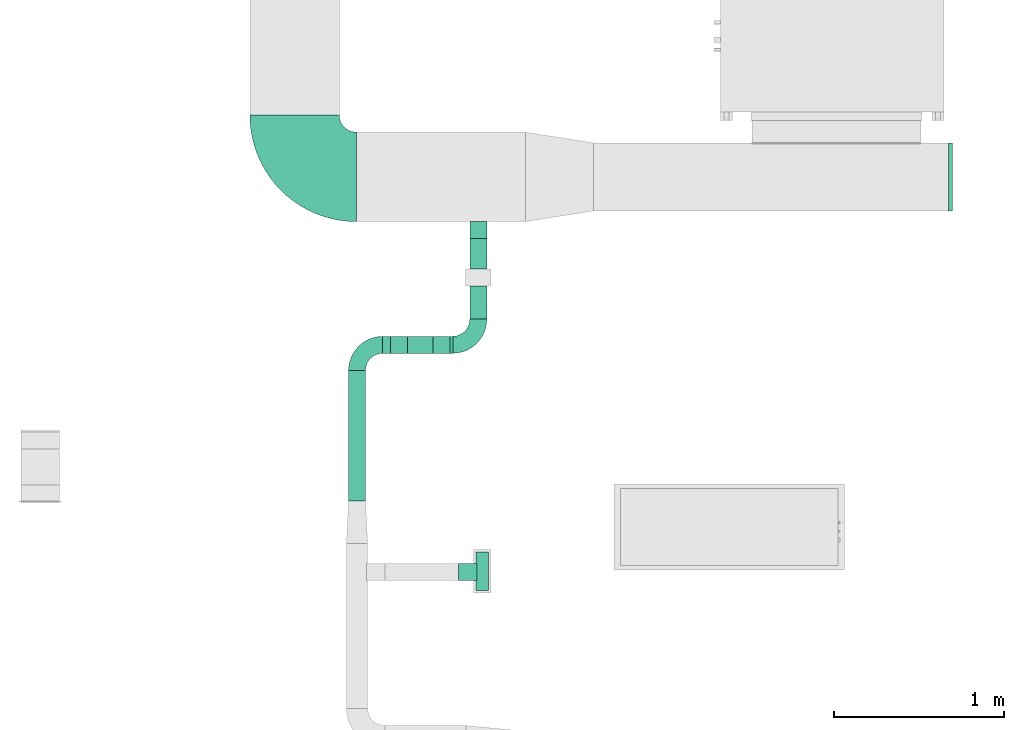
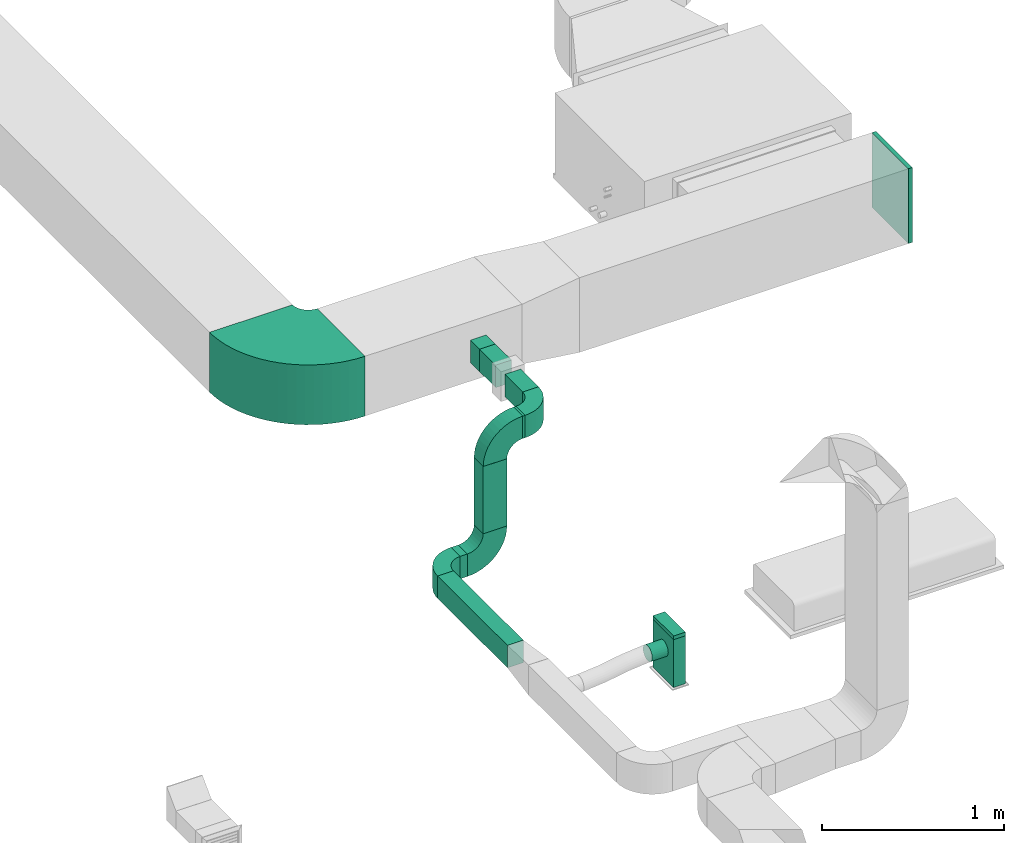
# One storey, part 28 of 60: 8 flow fittings, 7 flow segments, 1 flow terminal.
"""IFC2X3 building model written with IfcOpenShell, lengths in millimetres."""

from ifc_helpers import new_model, entity, si_unit, converted_unit, derived_unit, direction, frame, frame_2d, origin, origin_2d_with_axis, place, context, subcontext, project, spatial, polyline, circle_curve, parameter, trimmed, segment, composite_curve, rectangle, outline, extrude, faceted_brep, source, transform, mapped, material, type_object, type_shapes, element, save


model = new_model("IFC2X3")

# Units and contexts
model_context = context("Model", 3, precision=0.01, world=origin(), true_north=direction((6.123233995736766e-17, 1.0)))
body_context = subcontext(model_context, "Body", "Model", "MODEL_VIEW")
ifc_project = project(units=[si_unit("LENGTHUNIT", "METRE", prefix="MILLI"), converted_unit("PLANEANGLEUNIT", "DEGREE", entity("IfcPlaneAngleMeasure", 0.017453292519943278), si_unit("PLANEANGLEUNIT", "RADIAN"), dimensions=[0, 0, 0, 0, 0, 0, 0]), si_unit("AREAUNIT", "SQUARE_METRE"), derived_unit("THERMALTRANSMITTANCEUNIT", [(si_unit("MASSUNIT", "GRAM", prefix="KILO"), 1), (si_unit("THERMODYNAMICTEMPERATUREUNIT", "KELVIN"), -1), (si_unit("TIMEUNIT", "SECOND"), -3)])], contexts=[model_context])

# Site, building, storey
site_placement = place(None, origin())
site = spatial("IfcSite", under=ifc_project, at=site_placement, Name="Default", CompositionType="ELEMENT")
building_placement = place(site_placement, origin())
building = spatial("IfcBuilding", under=site, at=building_placement, Name="Praça Pedro II, 1301 - Centro (Sul), Teresina - PI, 64001-100", CompositionType="ELEMENT")
storey_placement = place(building_placement, frame((0.0, 0.0, 6040.0)))
storey = spatial("IfcBuildingStorey", under=building, at=storey_placement, Name="2PAV", CompositionType="ELEMENT", Elevation=6040.0)

# Flow segments
duct_segment_type_1 = type_object("IfcDuctSegmentType", Name="Duto retangular:Raios cotovelos / tês", PredefinedType="NOTDEFINED")
flow_segment_1_placement = place(storey_placement, origin())
element("IfcFlowSegment", 1, at=flow_segment_1_placement, inside=storey, type_object=duct_segment_type_1, Name="Duto retangular:Raios cotovelos / tês", ObjectType="Duto retangular:Raios cotovelos / tês", context=body_context, shape_type="SweptSolid", body=[
    extrude(rectangle(XDim=75.00000000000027, YDim=225.00000000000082, at=origin_2d_with_axis()), frame((36780.321071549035, -65462.120265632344, 2500.0), z_axis=(0.0, 0.0, 1.0), x_axis=(-1.0, 0.0, 0.0)), (0.0, 0.0, 1.0), 319.99999999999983),
])
duct_segment_type_2 = type_object("IfcDuctSegmentType", Name="Duto retangular:Raios cotovelos / torneiras", PredefinedType="NOTDEFINED")
flow_segment_2_placement = place(storey_placement, origin())
element("IfcFlowSegment", 2, at=flow_segment_2_placement, inside=storey, type_object=duct_segment_type_2, Name="Duto retangular:Raios cotovelos / torneiras", ObjectType="Duto retangular:Raios cotovelos / torneiras", context=body_context, shape_type="SweptSolid", body=[
    extrude(rectangle(XDim=194.99999999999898, YDim=99.99999999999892, at=frame_2d((-4.334310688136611e-12, -2.1671553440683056e-12), x_axis=(1.0, 0.0))), frame((36756.67870718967, -63885.653150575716, 3375.0), z_axis=(0.0, 0.0, 1.0), x_axis=(0.0, -1.0, 0.0)), (0.0, 0.0, 1.0), 150.00000000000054),
])
flow_segment_3_placement = place(storey_placement, origin())
element("IfcFlowSegment", 3, at=flow_segment_3_placement, inside=storey, type_object=duct_segment_type_2, Name="Duto retangular:Raios cotovelos / torneiras", ObjectType="Duto retangular:Raios cotovelos / torneiras", context=body_context, shape_type="SweptSolid", body=[
    extrude(rectangle(XDim=15.000000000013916, YDim=100.00000000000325, at=origin_2d_with_axis()), frame((36599.17870718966, -64133.1531505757, 3375.0), z_axis=(0.0, 0.0, 1.0), x_axis=(-1.0, 0.0, 0.0)), (0.0, 0.0, 1.0), 150.00000000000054),
])
flow_segment_4_placement = place(storey_placement, origin())
element("IfcFlowSegment", 4, at=flow_segment_4_placement, inside=storey, type_object=duct_segment_type_2, Name="Duto retangular:Raios cotovelos / torneiras", ObjectType="Duto retangular:Raios cotovelos / torneiras", context=body_context, shape_type="SweptSolid", body=[
    extrude(rectangle(XDim=177.37765059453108, YDim=99.99999999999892, at=frame_2d((4.334310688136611e-12, 0.0), x_axis=(1.0, 0.0))), frame((36756.67870718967, -63599.464325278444, 3375.0), z_axis=(0.0, 0.0, 1.0), x_axis=(0.0, -1.0, 0.0)), (0.0, 0.0, 1.0), 150.00000000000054),
])
flow_segment_5_placement = place(storey_placement, origin())
element("IfcFlowSegment", 5, at=flow_segment_5_placement, inside=storey, type_object=duct_segment_type_2, Name="Duto retangular:Raios cotovelos / torneiras", ObjectType="Duto retangular:Raios cotovelos / torneiras", context=body_context, shape_type="SweptSolid", body=[
    extrude(rectangle(XDim=100.00000000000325, YDim=150.00000000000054, at=origin_2d_with_axis()), frame((36416.678707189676, -64133.15315057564, 2825.0), z_axis=(0.0, 0.0, 1.0), x_axis=(0.0, -1.0, 0.0)), (0.0, 0.0, 1.0), 450.0000000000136),
])
flow_segment_6_placement = place(storey_placement, origin())
element("IfcFlowSegment", 6, at=flow_segment_6_placement, inside=storey, type_object=duct_segment_type_2, Name="Duto retangular:Raios cotovelos / torneiras", ObjectType="Duto retangular:Raios cotovelos / torneiras", context=body_context, shape_type="SweptSolid", body=[
    extrude(rectangle(XDim=46.30978149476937, YDim=100.00000000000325, at=frame_2d((0.0, -4.334310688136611e-12), x_axis=(1.0, 0.0))), frame((36218.52381644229, -64133.15315057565, 2575.0), z_axis=(0.0, 0.0, 1.0), x_axis=(-1.0, 0.0, 0.0)), (0.0, 0.0, 1.0), 150.00000000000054),
])
flow_segment_7_placement = place(storey_placement, origin())
element("IfcFlowSegment", 7, at=flow_segment_7_placement, inside=storey, type_object=duct_segment_type_2, Name="Duto retangular:Raios cotovelos / torneiras", ObjectType="Duto retangular:Raios cotovelos / torneiras", context=body_context, shape_type="SweptSolid", body=[
    extrude(rectangle(XDim=766.1890917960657, YDim=99.99999999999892, at=frame_2d((0.0, 6.497913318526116e-12), x_axis=(1.0, 0.0))), frame((36045.36892569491, -64666.247696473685, 2575.0), z_axis=(0.0, 0.0, 1.0), x_axis=(0.0, -1.0, 0.0)), (0.0, 0.0, 1.0), 150.00000000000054),
])

# Flow fittings
ifc_material = material(Name="<Unnamed>")
duct_fitting_type_1 = type_object("IfcDuctFittingType", Name="M_Tampa retangular:Padrão", PredefinedType="NOTDEFINED", material=ifc_material)
shared_shape_1 = source(origin(), body_context, "Body", "SweptSolid", [
    extrude(rectangle(XDim=24.99999999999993, YDim=400.0, at=frame_2d((8.881784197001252e-16, 0.0), x_axis=(1.0, 0.0))), frame((12.500000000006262, 0.0, -250.0)), (0.0, 0.0, 1.0), 500.00000000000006),
])
type_shapes(duct_fitting_type_1, [shared_shape_1])
flow_fitting_1_placement = place(storey_placement, frame((39513.6210715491, -63148.275499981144, 3400.0)))
element("IfcFlowFitting", 8, at=flow_fitting_1_placement, inside=storey, type_object=duct_fitting_type_1, material=ifc_material, Name="M_Tampa retangular:Padrão", ObjectType="M_Tampa retangular:Padrão", context=body_context, shape_type="MappedRepresentation", body=[
    mapped(shared_shape_1, transform((0.0, 0.0, 0.0), scale=1.0)),
])
duct_fitting_type_2 = type_object("IfcDuctFittingType", Name="M_Tampa retangular:Padrão", PredefinedType="NOTDEFINED", material=ifc_material)
shared_shape_2 = source(origin(), body_context, "Body", "SweptSolid", [
    extrude(rectangle(XDim=24.999999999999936, YDim=225.00000000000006, at=origin_2d_with_axis()), frame((12.500000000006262, 0.0, -37.50000000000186)), (0.0, 0.0, 1.0), 75.0),
])
type_shapes(duct_fitting_type_2, [shared_shape_2])
flow_fitting_2_placement = place(storey_placement, frame((36780.321071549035, -65462.12026563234, 2820.0), z_axis=(-1.0, 0.0, 0.0), x_axis=(0.0, 0.0, 1.0)))
element("IfcFlowFitting", 9, at=flow_fitting_2_placement, inside=storey, type_object=duct_fitting_type_2, material=ifc_material, Name="M_Tampa retangular:Padrão", ObjectType="M_Tampa retangular:Padrão", context=body_context, shape_type="MappedRepresentation", body=[
    mapped(shared_shape_2, transform((0.0, 0.0, 0.0), scale=1.0)),
])
duct_fitting_type_3 = type_object("IfcDuctFittingType", Name="M_Encaixe de duto redondo:Padrão", PredefinedType="NOTDEFINED", material=ifc_material)
shared_shape_3 = source(origin(), body_context, "Body", "Brep", [
    faceted_brep([(101.60000000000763, 50.0, 0.0), (101.60000000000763, 48.296291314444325, 12.940952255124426), (101.60000000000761, 43.301270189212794, 25.0), (101.6000000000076, 35.35533905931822, 35.35533905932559), (101.60000000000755, 25.0, 43.30127018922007), (101.60000000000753, 12.94095225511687, 48.29629131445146), (101.6000000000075, 0.0, 50.0), (101.60000000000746, -12.940952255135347, 48.29629131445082), (101.60000000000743, -25.0, 43.30127018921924), (101.6000000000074, -35.35533905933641, 35.355339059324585), (101.60000000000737, -43.301270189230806, 25.0), (101.60000000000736, -48.296291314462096, 12.940952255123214), (101.60000000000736, -50.0, 0.0), (101.60000000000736, -48.29629131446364, -12.94095225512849), (101.60000000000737, -43.301270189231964, -25.0), (101.6000000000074, -35.35533905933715, -35.35533905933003), (101.60000000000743, -25.0, -43.30127018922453), (101.60000000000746, -12.94095225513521, -48.29629131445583), (101.6000000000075, 0.0, -50.0), (101.60000000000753, 12.9409522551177, -48.29629131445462), (101.60000000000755, 25.0, -43.30127018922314), (101.6000000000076, 35.35533905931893, -35.35533905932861), (101.60000000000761, 43.30127018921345, -25.0), (101.60000000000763, 48.2962913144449, -12.940952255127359), (0.0, 12.940952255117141, 48.29629131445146), (-6.0959999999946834, 12.94095225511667, 48.29629131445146), (-6.095999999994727, 0.0, 50.0), (0.0, 0.0, 50.0), (0.0, 25.0, 43.30127018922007), (-6.0959999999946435, 25.0, 43.30127018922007), (0.0, 35.35533905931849, 35.35533905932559), (-6.095999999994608, 35.35533905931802, 35.35533905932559), (0.0, 48.296291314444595, 12.940952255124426), (-6.095999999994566, 48.296291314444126, 12.940952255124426), (-6.095999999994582, 43.3012701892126, 25.0), (0.0, 43.301270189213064, 25.0), (0.0, 50.0, 0.0), (-6.09599999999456, 50.0, 0.0), (0.0, 43.30127018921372, -25.0), (-6.095999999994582, 43.30127018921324, -25.0), (-6.095999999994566, 48.296291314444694, -12.940952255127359), (0.0, 48.29629131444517, -12.940952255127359), (0.0, 35.3553390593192, -35.35533905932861), (-6.095999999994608, 35.35533905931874, -35.35533905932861), (0.0, 12.940952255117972, -48.29629131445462), (-6.0959999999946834, 12.940952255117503, -48.29629131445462), (-6.0959999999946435, 25.0, -43.30127018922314), (0.0, 25.0, -43.30127018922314), (0.0, 0.0, -50.0), (-6.095999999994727, 0.0, -50.0), (0.0, -12.940952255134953, -48.29629131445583), (-6.09599999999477, -12.940952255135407, -48.29629131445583), (0.0, -25.0, -43.30127018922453), (-6.0959999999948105, -25.0, -43.30127018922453), (0.0, -35.35533905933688, -35.35533905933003), (-6.095999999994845, -35.355339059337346, -35.35533905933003), (0.0, -48.29629131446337, -12.94095225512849), (-6.095999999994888, -48.29629131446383, -12.94095225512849), (-6.095999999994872, -43.30127018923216, -25.0), (0.0, -43.301270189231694, -25.0), (0.0, -50.0, 0.0), (-6.095999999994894, -50.0, 0.0), (0.0, -48.296291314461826, 12.940952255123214), (-6.095999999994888, -48.296291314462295, 12.940952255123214), (0.0, -43.30127018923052, 25.0), (-6.095999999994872, -43.301270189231, 25.0), (0.0, -35.35533905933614, 35.355339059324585), (-6.095999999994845, -35.35533905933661, 35.355339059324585), (0.0, -12.940952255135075, 48.29629131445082), (-6.09599999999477, -12.940952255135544, 48.29629131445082), (-6.0959999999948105, -25.0, 43.30127018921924), (0.0, -25.0, 43.30127018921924)], [[[0, 1, 2, 3, 4, 5, 6, 7, 8, 9, 10, 11, 12, 13, 14, 15, 16, 17, 18, 19, 20, 21, 22, 23]], [[24, 25, 26, 27, 6, 5]], [[28, 29, 25, 24, 5, 4]], [[4, 3, 30, 31, 29, 28]], [[32, 33, 34, 35, 2, 1]], [[36, 37, 33, 32, 1, 0]], [[3, 2, 35, 34, 31, 30]], [[23, 22, 38, 39, 40, 41]], [[0, 23, 41, 40, 37, 36]], [[22, 21, 42, 43, 39, 38]], [[44, 45, 46, 47, 20, 19]], [[48, 49, 45, 44, 19, 18]], [[21, 20, 47, 46, 43, 42]], [[50, 51, 49, 48, 18, 17]], [[52, 53, 51, 50, 17, 16]], [[16, 15, 54, 55, 53, 52]], [[56, 57, 58, 59, 14, 13]], [[60, 61, 57, 56, 13, 12]], [[15, 14, 59, 58, 55, 54]], [[62, 63, 61, 60, 12, 11]], [[64, 65, 63, 62, 11, 10]], [[10, 9, 66, 67, 65, 64]], [[68, 69, 70, 71, 8, 7]], [[27, 26, 69, 68, 7, 6]], [[9, 8, 71, 70, 67, 66]], [[49, 51, 53, 55, 58, 57, 61, 63, 65, 67, 70, 69, 26, 25, 29, 31, 34, 33, 37, 40, 39, 43, 46, 45]]]),
])
type_shapes(duct_fitting_type_3, [shared_shape_3])
flow_fitting_3_placement = place(storey_placement, frame((36742.82107154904, -65466.41699191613, 2700.0), z_axis=(0.0, 1.0, 0.0), x_axis=(-1.0, 0.0, 0.0)))
element("IfcFlowFitting", 10, at=flow_fitting_3_placement, inside=storey, type_object=duct_fitting_type_3, material=ifc_material, Name="M_Encaixe de duto redondo:Padrão", ObjectType="M_Encaixe de duto redondo:Padrão", context=body_context, shape_type="MappedRepresentation", body=[
    mapped(shared_shape_3, transform((0.0, 0.0, 0.0), scale=1.0)),
])
duct_fitting_type_4 = type_object("IfcDuctFittingType", Name="BTS vanes:1 Splitter Vanes", PredefinedType="NOTDEFINED", material=ifc_material)
shared_shape_4 = source(origin(), body_context, "Body", "SweptSolid", [
    extrude(outline(composite_curve([segment(polyline([(-125.0, -75.0), (-25.0, -75.0)]), True, "CONTINUOUS"), segment(trimmed(circle_curve(frame_2d((75.0, -75.0), x_axis=(0.0, 1.0)), 100.0), [parameter(0.0)], [parameter(90.00000000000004)], True, "PARAMETER"), False, "CONTINUOUS"), segment(polyline([(75.0, 25.0), (75.0, 125.0)]), True, "CONTINUOUS"), segment(trimmed(circle_curve(frame_2d((75.0, -75.0), x_axis=(0.0, 1.0)), 200.0), [parameter(0.0)], [parameter(90.00000000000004)], True, "PARAMETER"), True, "CONTINUOUS")], self_intersect=False)), frame((-75.0, 75.0, -75.0), z_axis=(0.0, 0.0, 1.0), x_axis=(-1.0, 0.0, 0.0)), (0.0, 0.0, 1.0), 150.0),
    extrude(outline(composite_curve([segment(polyline([(-77.63157894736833, -59.21052631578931), (-40.78947368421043, -59.2105263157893)]), True, "CONTINUOUS"), segment(trimmed(circle_curve(frame_2d((59.21052631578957, -59.21052631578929), x_axis=(0.0, 1.0)), 99.99999999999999), [parameter(0.0)], [parameter(90.00000000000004)], True, "PARAMETER"), False, "CONTINUOUS"), segment(polyline([(59.210526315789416, 40.789473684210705), (59.21052631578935, 77.63157894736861)]), True, "CONTINUOUS"), segment(trimmed(circle_curve(frame_2d((59.21052631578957, -59.21052631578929), x_axis=(0.0, 1.0)), 136.8421052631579), [parameter(0.0)], [parameter(89.99999999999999)], True, "PARAMETER"), True, "CONTINUOUS")], self_intersect=False)), frame((-90.78947368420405, 90.78947368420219, -75.0), z_axis=(0.0, 0.0, 1.0), x_axis=(-1.0, 0.0, 0.0)), (0.0, 0.0, 1.0), 150.0),
])
type_shapes(duct_fitting_type_4, [shared_shape_4])
flow_fitting_4_placement = place(storey_placement, frame((36756.67870718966, -64133.153150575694, 3450.0)))
element("IfcFlowFitting", 11, at=flow_fitting_4_placement, inside=storey, type_object=duct_fitting_type_4, material=ifc_material, Name="BTS vanes:1 Splitter Vanes", ObjectType="BTS vanes:1 Splitter Vanes", context=body_context, shape_type="MappedRepresentation", body=[
    mapped(shared_shape_4, transform((0.0, 0.0, 0.0), scale=1.0)),
])
flow_fitting_5_placement = place(storey_placement, frame((36045.36892569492, -64133.153150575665, 2650.0), z_axis=(0.0, 0.0, 1.0), x_axis=(-1.0, 0.0, 0.0)))
element("IfcFlowFitting", 12, at=flow_fitting_5_placement, inside=storey, type_object=duct_fitting_type_4, material=ifc_material, Name="BTS vanes:1 Splitter Vanes", ObjectType="BTS vanes:1 Splitter Vanes", context=body_context, shape_type="MappedRepresentation", body=[
    mapped(shared_shape_4, transform((0.0, 0.0, 0.0), scale=1.0)),
])

# Flow terminal
air_terminal_type = type_object("IfcAirTerminalType", Name="grelha genérica:grelha genérica", PredefinedType="NOTDEFINED", material=ifc_material)
shared_shape_5 = source(origin(), body_context, "Body", "SweptSolid", [
    extrude(rectangle(XDim=100.0, YDim=100.00000000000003, at=origin_2d_with_axis()), frame((50.0, 0.0, -75.0), z_axis=(0.0, 0.0, 1.0), x_axis=(-1.0, 0.0, 0.0)), (0.0, 0.0, 1.0), 150.0),
])
type_shapes(air_terminal_type, [shared_shape_5])
flow_terminal_placement = place(storey_placement, frame((36756.67870718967, -63410.77549998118, 3450.0), z_axis=(0.0, 0.0, 1.0), x_axis=(0.0, -1.0, 0.0)))
element("IfcFlowTerminal", 13, at=flow_terminal_placement, inside=storey, type_object=air_terminal_type, material=ifc_material, Name="grelha genérica:grelha genérica", ObjectType="grelha genérica:grelha genérica", context=body_context, shape_type="MappedRepresentation", body=[
    mapped(shared_shape_5, transform((0.0, 0.0, 0.0), scale=1.0)),
])

# Flow fittings
duct_fitting_type_5 = type_object("IfcDuctFittingType", Name="BTS vanes:1 Splitter Vanes", PredefinedType="NOTDEFINED", material=ifc_material)
shared_shape_6 = source(origin(), body_context, "Body", "SweptSolid", [
    extrude(outline(composite_curve([segment(polyline([(-162.5, -87.49999999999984), (-12.499999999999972, -87.49999999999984)]), True, "CONTINUOUS"), segment(trimmed(circle_curve(frame_2d((87.50000000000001, -87.49999999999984), x_axis=(0.0, 1.0)), 99.99999999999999), [parameter(0.0)], [parameter(90.00000000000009)], True, "PARAMETER"), False, "CONTINUOUS"), segment(polyline([(87.50000000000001, 12.500000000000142), (87.50000000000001, 162.50000000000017)]), True, "CONTINUOUS"), segment(trimmed(circle_curve(frame_2d((87.50000000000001, -87.49999999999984), x_axis=(0.0, 1.0)), 250.00000000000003), [parameter(0.0)], [parameter(90.00000000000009)], True, "PARAMETER"), True, "CONTINUOUS")], self_intersect=False)), frame((-87.4999999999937, 87.49999999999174, -50.0), z_axis=(0.0, 0.0, 1.0), x_axis=(-1.0, 0.0, 0.0)), (0.0, 0.0, 1.0), 100.0),
    extrude(outline(composite_curve([segment(polyline([(-77.63157894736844, -59.21052631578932), (-40.789473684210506, -59.21052631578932)]), True, "CONTINUOUS"), segment(trimmed(circle_curve(frame_2d((59.210526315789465, -59.21052631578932), x_axis=(0.0, 1.0)), 99.99999999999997), [parameter(0.0)], [parameter(90.00000000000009)], True, "PARAMETER"), False, "CONTINUOUS"), segment(polyline([(59.210526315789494, 40.78947368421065), (59.210526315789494, 77.63157894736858)]), True, "CONTINUOUS"), segment(trimmed(circle_curve(frame_2d((59.210526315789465, -59.21052631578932), x_axis=(0.0, 1.0)), 136.8421052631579), [parameter(0.0)], [parameter(90.00000000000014)], True, "PARAMETER"), True, "CONTINUOUS")], self_intersect=False)), frame((-115.78947368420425, 115.78947368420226, -50.0), z_axis=(0.0, 0.0, 1.0), x_axis=(-1.0, 0.0, 0.0)), (0.0, 0.0, 1.0), 100.0),
])
type_shapes(duct_fitting_type_5, [shared_shape_6])
for number, where, z_axis, x_axis, name in (
    (14, (36416.67870718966, -64133.1531505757, 3450.0), (0.0, -1.0, 0.0), (-1.0, 0.0, 0.0), "BTS vanes:1 Splitter Vanes"),
    (15, (36416.678707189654, -64133.15315057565, 2650.0), (0.0, 1.0, 0.0), (0.0, 0.0, -1.0), "BTS vanes:1 Splitter Vanes"),
):
    element("IfcFlowFitting", number, at=place(storey_placement, frame(where, z_axis=z_axis, x_axis=x_axis)), inside=storey, type_object=duct_fitting_type_5, material=ifc_material, Name=name, ObjectType="BTS vanes:1 Splitter Vanes", context=body_context, shape_type="MappedRepresentation", body=[
        mapped(shared_shape_6, transform((0.0, 0.0, 0.0), scale=1.0)),
    ])
duct_fitting_type_6 = type_object("IfcDuctFittingType", Name="BTS vanes:1 Splitter Vanes", PredefinedType="NOTDEFINED", material=ifc_material)
shared_shape_7 = source(origin(), body_context, "Body", "SweptSolid", [
    extrude(outline(composite_curve([segment(polyline([(-443.75, -181.24999999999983), (81.24999999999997, -181.24999999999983)]), True, "CONTINUOUS"), segment(trimmed(circle_curve(frame_2d((181.25000000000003, -181.24999999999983), x_axis=(0.0, 1.0)), 99.99999999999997), [parameter(0.0)], [parameter(90.00000000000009)], True, "PARAMETER"), False, "CONTINUOUS"), segment(polyline([(181.25000000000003, -81.24999999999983), (181.25000000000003, 443.7500000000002)]), True, "CONTINUOUS"), segment(trimmed(circle_curve(frame_2d((181.25000000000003, -181.24999999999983), x_axis=(0.0, 1.0)), 625.0), [parameter(0.0)], [parameter(90.00000000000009)], True, "PARAMETER"), True, "CONTINUOUS")], self_intersect=False)), frame((-181.24999999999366, 181.24999999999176, -200.0), z_axis=(0.0, 0.0, 1.0), x_axis=(-1.0, 0.0, 0.0)), (0.0, 0.0, 1.0), 400.0),
    extrude(outline(composite_curve([segment(polyline([(-77.63157894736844, -59.21052631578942), (-40.78947368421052, -59.21052631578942)]), True, "CONTINUOUS"), segment(trimmed(circle_curve(frame_2d((59.21052631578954, -59.210526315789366), x_axis=(0.0, 1.0)), 100.00000000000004), [parameter(0.0)], [parameter(90.00000000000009)], True, "PARAMETER"), False, "CONTINUOUS"), segment(polyline([(59.21052631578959, 40.78947368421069), (59.21052631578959, 77.63157894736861)]), True, "CONTINUOUS"), segment(trimmed(circle_curve(frame_2d((59.21052631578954, -59.210526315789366), x_axis=(0.0, 1.0)), 136.84210526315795), [parameter(0.0)], [parameter(90.00000000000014)], True, "PARAMETER"), True, "CONTINUOUS")], self_intersect=False)), frame((-303.28947368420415, 303.2894736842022, -200.0), z_axis=(0.0, 0.0, 1.0), x_axis=(-1.0, 0.0, 0.0)), (0.0, 0.0, 1.0), 400.0),
])
type_shapes(duct_fitting_type_6, [shared_shape_7])
flow_fitting_6_placement = place(storey_placement, frame((35678.621071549, -63148.27549998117, 3450.0), z_axis=(0.0, 0.0, 1.0), x_axis=(0.0, -1.0, 0.0)))
element("IfcFlowFitting", 16, at=flow_fitting_6_placement, inside=storey, type_object=duct_fitting_type_6, material=ifc_material, Name="BTS vanes:1 Splitter Vanes", ObjectType="BTS vanes:1 Splitter Vanes", context=body_context, shape_type="MappedRepresentation", body=[
    mapped(shared_shape_7, transform((0.0, 0.0, 0.0), scale=1.0)),
])

save(model, "model.ifc")
